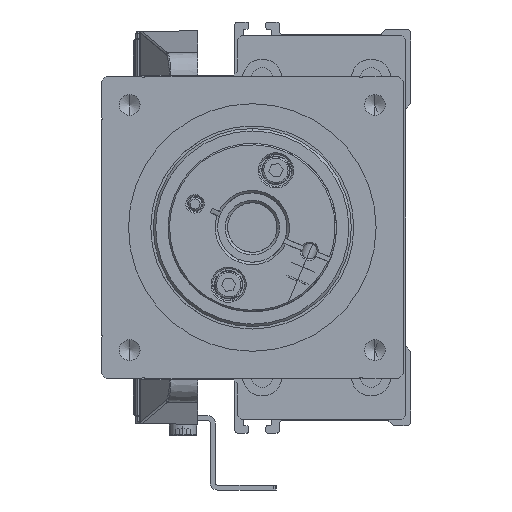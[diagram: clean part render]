
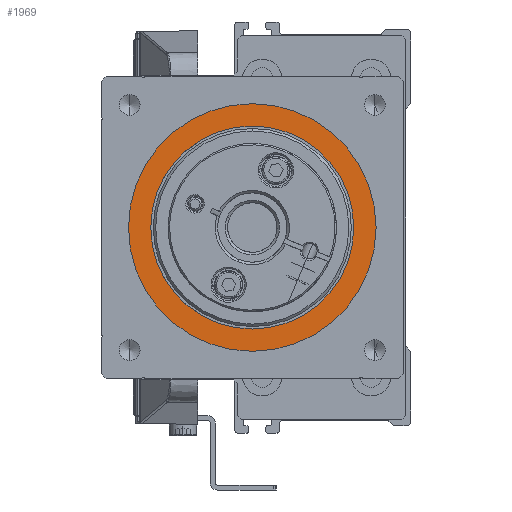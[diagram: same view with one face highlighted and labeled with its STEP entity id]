
A CAD part, left-side view. The second image highlights one B-rep face of the part: STEP entity #1969.
In plain terms, the highlighted planar face has unit normal (-1, 0, 0).
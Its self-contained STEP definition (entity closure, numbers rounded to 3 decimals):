
#741 = CARTESIAN_POINT ( 'NONE',  ( -76., 32., 0. ) ) ;
#1969 = ADVANCED_FACE ( 'NONE', ( #11553, #25886 ), #34076, .T. ) ;
#2018 = AXIS2_PLACEMENT_3D ( 'NONE', #28216, #24885, #8479 ) ;
#2372 = EDGE_LOOP ( 'NONE', ( #6543, #12249 ) ) ;
#2968 = DIRECTION ( 'NONE',  ( 0., 0., 1. ) ) ;
#5294 = ORIENTED_EDGE ( 'NONE', *, *, #32289, .T. ) ;
#6543 = ORIENTED_EDGE ( 'NONE', *, *, #24837, .T. ) ;
#7140 = VERTEX_POINT ( 'NONE', #14182 ) ;
#8479 = DIRECTION ( 'NONE',  ( 0., 0., 1. ) ) ;
#8525 = CIRCLE ( 'NONE', #21638, 25. ) ;
#8877 = DIRECTION ( 'NONE',  ( -1., 0., 0. ) ) ;
#10215 = EDGE_CURVE ( 'NONE', #29039, #31011, #17949, .T. ) ;
#10853 = VERTEX_POINT ( 'NONE', #20007 ) ;
#11104 = EDGE_CURVE ( 'NONE', #10853, #7140, #33865, .T. ) ;
#11553 = FACE_OUTER_BOUND ( 'NONE', #25572, .T. ) ;
#12249 = ORIENTED_EDGE ( 'NONE', *, *, #11104, .T. ) ;
#13396 = DIRECTION ( 'NONE',  ( -1., 0., 0. ) ) ;
#14182 = CARTESIAN_POINT ( 'NONE',  ( -76., 32., 20.5 ) ) ;
#14232 = ORIENTED_EDGE ( 'NONE', *, *, #10215, .T. ) ;
#15703 = DIRECTION ( 'NONE',  ( 1., 0., 0. ) ) ;
#17949 = CIRCLE ( 'NONE', #22673, 25. ) ;
#18918 = CARTESIAN_POINT ( 'NONE',  ( -76., 32., 25. ) ) ;
#19554 = CARTESIAN_POINT ( 'NONE',  ( -76., 32., -25. ) ) ;
#20007 = CARTESIAN_POINT ( 'NONE',  ( -76., 32., -20.5 ) ) ;
#21638 = AXIS2_PLACEMENT_3D ( 'NONE', #36668, #13396, #24748 ) ;
#22298 = CARTESIAN_POINT ( 'NONE',  ( -76., 32., 0. ) ) ;
#22673 = AXIS2_PLACEMENT_3D ( 'NONE', #31045, #8877, #31413 ) ;
#24748 = DIRECTION ( 'NONE',  ( 0., 0., 1. ) ) ;
#24837 = EDGE_CURVE ( 'NONE', #7140, #10853, #35326, .T. ) ;
#24885 = DIRECTION ( 'NONE',  ( 1., 0., 0. ) ) ;
#25560 = AXIS2_PLACEMENT_3D ( 'NONE', #22298, #15703, #33668 ) ;
#25572 = EDGE_LOOP ( 'NONE', ( #5294, #14232 ) ) ;
#25886 = FACE_BOUND ( 'NONE', #2372, .T. ) ;
#28216 = CARTESIAN_POINT ( 'NONE',  ( -76., 32., 0. ) ) ;
#28472 = DIRECTION ( 'NONE',  ( -1., 0., 0. ) ) ;
#29039 = VERTEX_POINT ( 'NONE', #19554 ) ;
#31011 = VERTEX_POINT ( 'NONE', #18918 ) ;
#31045 = CARTESIAN_POINT ( 'NONE',  ( -76., 32., 0. ) ) ;
#31413 = DIRECTION ( 'NONE',  ( 0., 0., 1. ) ) ;
#32289 = EDGE_CURVE ( 'NONE', #31011, #29039, #8525, .T. ) ;
#33668 = DIRECTION ( 'NONE',  ( 0., 0., 1. ) ) ;
#33865 = CIRCLE ( 'NONE', #25560, 20.5 ) ;
#34076 = PLANE ( 'NONE',  #35936 ) ;
#35326 = CIRCLE ( 'NONE', #2018, 20.5 ) ;
#35936 = AXIS2_PLACEMENT_3D ( 'NONE', #741, #28472, #2968 ) ;
#36668 = CARTESIAN_POINT ( 'NONE',  ( -76., 32., 0. ) ) ;
